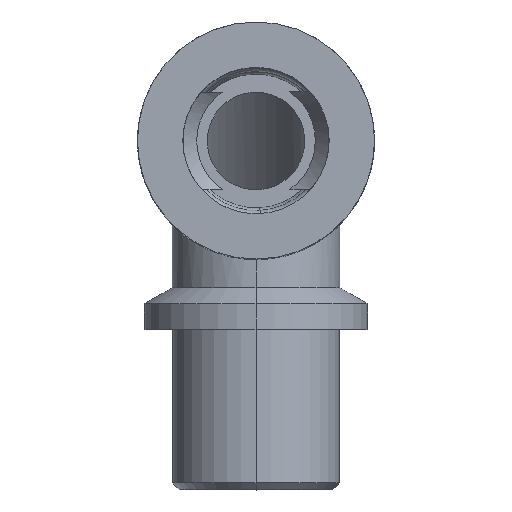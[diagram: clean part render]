
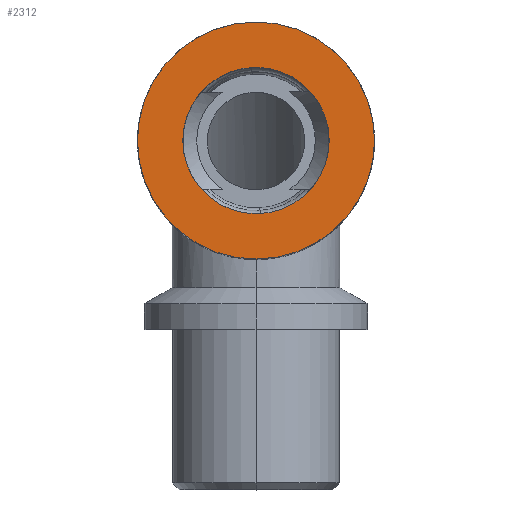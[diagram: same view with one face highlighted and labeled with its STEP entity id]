
A CAD part, top view. The second image highlights one B-rep face of the part: STEP entity #2312.
In plain terms, the highlighted planar face has unit normal (0, 0, 1) as drawn and (0, 1, 0) by its records, which use the part's own axes.
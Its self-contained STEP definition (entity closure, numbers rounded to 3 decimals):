
#235 = VERTEX_POINT ( 'NONE', #4345 ) ;
#286 = FACE_OUTER_BOUND ( 'NONE', #1913, .T. ) ;
#547 = EDGE_CURVE ( 'NONE', #235, #2408, #1622, .T. ) ;
#603 = FACE_BOUND ( 'NONE', #1284, .T. ) ;
#675 = VERTEX_POINT ( 'NONE', #3467 ) ;
#756 = AXIS2_PLACEMENT_3D ( 'NONE', #4214, #1563, #1900 ) ;
#788 = CARTESIAN_POINT ( 'NONE',  ( -2.282, 5.814, 0. ) ) ;
#978 = CIRCLE ( 'NONE', #2775, 5.25 ) ;
#1177 = DIRECTION ( 'NONE',  ( 0., -1., 0. ) ) ;
#1195 = DIRECTION ( 'NONE',  ( 0., -1., 0. ) ) ;
#1226 = AXIS2_PLACEMENT_3D ( 'NONE', #3889, #1195, #2204 ) ;
#1284 = EDGE_LOOP ( 'NONE', ( #3775, #1486 ) ) ;
#1367 = EDGE_CURVE ( 'NONE', #2276, #675, #978, .T. ) ;
#1421 = CIRCLE ( 'NONE', #1226, 5.25 ) ;
#1486 = ORIENTED_EDGE ( 'NONE', *, *, #4113, .T. ) ;
#1491 = CARTESIAN_POINT ( 'NONE',  ( -2.282, 5.814, 0. ) ) ;
#1563 = DIRECTION ( 'NONE',  ( 0., -1., 0. ) ) ;
#1603 = AXIS2_PLACEMENT_3D ( 'NONE', #2877, #4255, #3220 ) ;
#1622 = CIRCLE ( 'NONE', #2448, 8.5 ) ;
#1900 = DIRECTION ( 'NONE',  ( 0., 0., -1. ) ) ;
#1913 = EDGE_LOOP ( 'NONE', ( #4396, #3566 ) ) ;
#2158 = DIRECTION ( 'NONE',  ( 0., -1., 0. ) ) ;
#2204 = DIRECTION ( 'NONE',  ( 0., 0., -1. ) ) ;
#2276 = VERTEX_POINT ( 'NONE', #2597 ) ;
#2312 = ADVANCED_FACE ( 'NONE', ( #286, #603 ), #2586, .F. ) ;
#2408 = VERTEX_POINT ( 'NONE', #3504 ) ;
#2448 = AXIS2_PLACEMENT_3D ( 'NONE', #788, #2158, #2838 ) ;
#2531 = EDGE_CURVE ( 'NONE', #2408, #235, #2683, .T. ) ;
#2539 = DIRECTION ( 'NONE',  ( 0., 0., -1. ) ) ;
#2586 = PLANE ( 'NONE',  #1603 ) ;
#2597 = CARTESIAN_POINT ( 'NONE',  ( -2.282, 5.814, -5.25 ) ) ;
#2683 = CIRCLE ( 'NONE', #756, 8.5 ) ;
#2775 = AXIS2_PLACEMENT_3D ( 'NONE', #1491, #1177, #2539 ) ;
#2838 = DIRECTION ( 'NONE',  ( 0., 0., -1. ) ) ;
#2877 = CARTESIAN_POINT ( 'NONE',  ( -7.532, 5.814, 0. ) ) ;
#3220 = DIRECTION ( 'NONE',  ( 0., 0., -1. ) ) ;
#3467 = CARTESIAN_POINT ( 'NONE',  ( -2.282, 5.814, 5.25 ) ) ;
#3504 = CARTESIAN_POINT ( 'NONE',  ( -2.282, 5.814, 8.5 ) ) ;
#3566 = ORIENTED_EDGE ( 'NONE', *, *, #2531, .F. ) ;
#3775 = ORIENTED_EDGE ( 'NONE', *, *, #1367, .T. ) ;
#3889 = CARTESIAN_POINT ( 'NONE',  ( -2.282, 5.814, 0. ) ) ;
#4113 = EDGE_CURVE ( 'NONE', #675, #2276, #1421, .T. ) ;
#4214 = CARTESIAN_POINT ( 'NONE',  ( -2.282, 5.814, 0. ) ) ;
#4255 = DIRECTION ( 'NONE',  ( 0., -1., 0. ) ) ;
#4345 = CARTESIAN_POINT ( 'NONE',  ( -2.282, 5.814, -8.5 ) ) ;
#4396 = ORIENTED_EDGE ( 'NONE', *, *, #547, .F. ) ;
